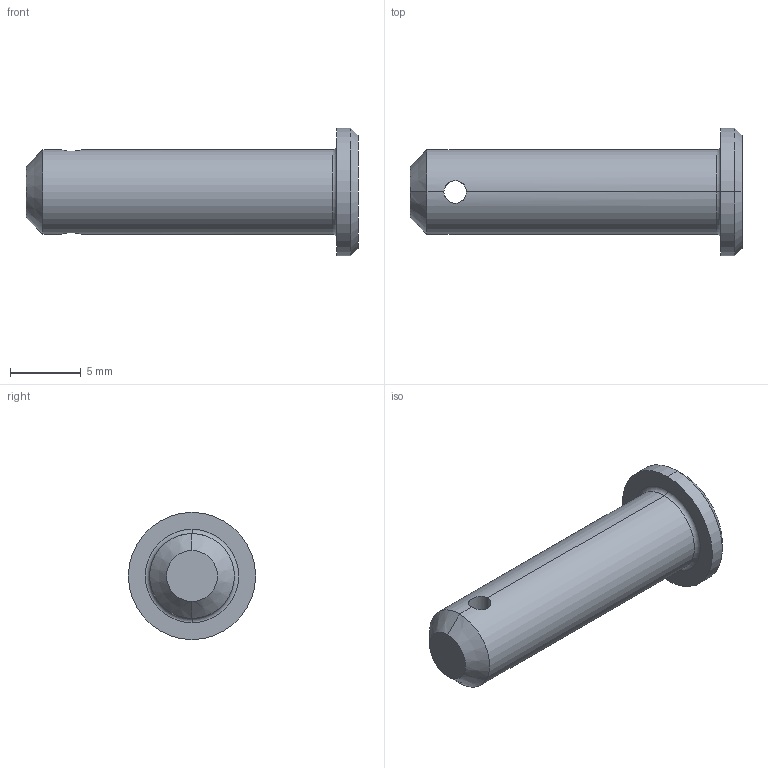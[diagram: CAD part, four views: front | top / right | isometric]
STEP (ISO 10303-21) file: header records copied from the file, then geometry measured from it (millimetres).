
FILE_DESCRIPTION (( 'STEP AP203' ), '1' );
FILE_NAME ('Wiberger-sms2360_6x22.step', '2012-10-09T08:58:15', ( 'Magnus' ), ( 'Wiberger' ), 'SwSTEP 2.0', 'SolidWorks 2011', '' );
FILE_SCHEMA (( 'CONFIG_CONTROL_DESIGN' ));
Length unit declared in the file: millimetre
Products named in the file (1): Wiberger-sms2360_6x22
Bounding box: 23.5 x 9 x 9 mm (x, y, z)
Volume: 690.7 mm3; surface area: 583.8 mm2
Topology: 1 solids, 1 shells, 15 faces, 32 edges, 18 vertices
Faces by surface type: cylinder 6, cone 4, plane 3, torus 2
Entity records: 539 total; most frequent: CARTESIAN_POINT 130, DIRECTION 76, ORIENTED_EDGE 64, EDGE_CURVE 32, AXIS2_PLACEMENT_3D 32, VERTEX_POINT 18, EDGE_LOOP 16, CIRCLE 16
